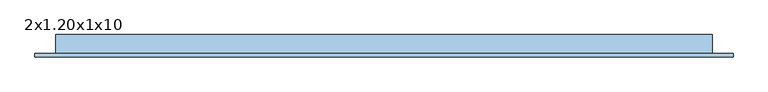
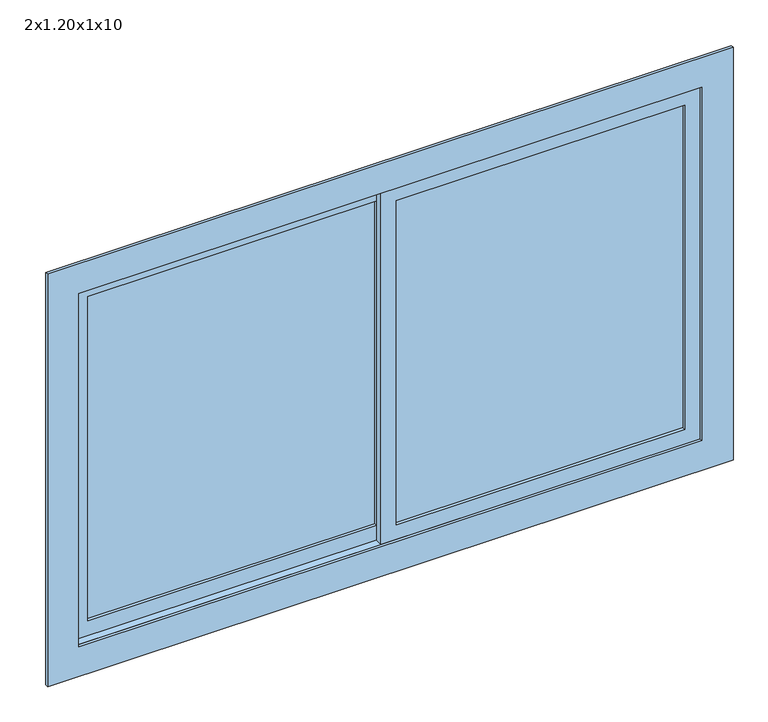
"""IFC4 building model written with IfcOpenShell, lengths in millimetres: window geometry, JANELA COM ESQUADRIA DE CORRER - 2 FOLHAS : 2x1.20x1x10."""

from ifc_helpers import new_model, si_unit, frame, origin, place, context, project, spatial, polyline, outline, extrude, source, transform, mapped, element, save


def window_2x1_20x1x10_9e9748dd(model_context):
    return source(origin(), model_context, "Body", "SweptSolid", [
        extrude(outline(polyline([(-820.5964491, -5.3758395), (104.4035509, -5.3758395), (104.4035509, -11.3758395), (-820.5964491, -11.3758395), (-820.5964491, -5.3758395)])), frame((0.0, 0.0, 1050.0), z_axis=(0.0, 0.0, 1.0), x_axis=(1.0, 0.0, 0.0)), (0.0, 0.0, 1.0), 1100.0),
        extrude(outline(polyline([(2200.0, -870.5964491), (1000.0, -870.5964491), (1000.0, 154.4035509), (2200.0, 154.4035509), (2200.0, -870.5964491)]), holes=[polyline([(2150.0, -820.5964491), (2150.0, 104.4035509), (1050.0, 104.4035509), (1050.0, -820.5964491), (2150.0, -820.5964491)])]), frame((0.0, -20.8758395, 0.0), z_axis=(0.0, 1.0, 0.0), x_axis=(0.0, 0.0, 1.0)), (0.0, 0.0, 1.0), 25.0),
        extrude(outline(polyline([(1079.4035509, -30.3758395), (1079.4035509, -36.3758395), (154.4035509, -36.3758395), (154.4035509, -30.3758395), (1079.4035509, -30.3758395)])), frame((0.0, 0.0, 1050.0), z_axis=(0.0, 0.0, 1.0), x_axis=(1.0, 0.0, 0.0)), (0.0, 0.0, 1.0), 1100.0),
        extrude(outline(polyline([(2200.0, 1129.4035509), (2200.0, 104.4035509), (1000.0, 104.4035509), (1000.0, 1129.4035509), (2200.0, 1129.4035509)]), holes=[polyline([(2150.0, 1079.4035509), (1050.0, 1079.4035509), (1050.0, 154.4035509), (2150.0, 154.4035509), (2150.0, 1079.4035509)])]), frame((0.0, -45.8758395, 0.0), z_axis=(0.0, 1.0, 0.0), x_axis=(0.0, 0.0, 1.0)), (0.0, 0.0, 1.0), 25.0),
        extrude(outline(polyline([(900.0, -970.5964491), (900.0, 1229.4035509), (2300.0, 1229.4035509), (2300.0, -970.5964491), (900.0, -970.5964491)]), holes=[polyline([(2200.0, -870.5964491), (2200.0, 1129.4035509), (1000.0, 1129.4035509), (1000.0, -870.5964491), (2200.0, -870.5964491)])]), frame((0.0, -55.8758395, 0.0), z_axis=(0.0, 1.0, 0.0), x_axis=(0.0, 0.0, 1.0)), (0.0, 0.0, 1.0), 10.0),
        extrude(outline(polyline([(-905.5964491, 14.1241605), (-870.5964491, 14.1241605), (-870.5964491, -45.8758395), (-905.5964491, -45.8758395), (-905.5964491, 14.1241605)])), frame((0.0, 0.0, 1000.0), z_axis=(0.0, 0.0, 1.0), x_axis=(1.0, 0.0, 0.0)), (0.0, 0.0, 1.0), 1200.0),
        extrude(outline(polyline([(1129.4035509, 14.1241605), (1164.4035509, 14.1241605), (1164.4035509, -45.8758395), (1129.4035509, -45.8758395), (1129.4035509, 14.1241605)])), frame((0.0, 0.0, 1000.0), z_axis=(0.0, 0.0, 1.0), x_axis=(1.0, 0.0, 0.0)), (0.0, 0.0, 1.0), 1200.0),
        extrude(outline(polyline([(-905.5964491, 14.1241605), (1164.4035509, 14.1241605), (1164.4035509, -45.8758395), (-905.5964491, -45.8758395), (-905.5964491, 14.1241605)])), frame((0.0, 0.0, 965.0), z_axis=(0.0, 0.0, 1.0), x_axis=(1.0, 0.0, 0.0)), (0.0, 0.0, 1.0), 35.0),
        extrude(outline(polyline([(-905.5964491, 14.1241605), (1164.4035509, 14.1241605), (1164.4035509, -45.8758395), (-905.5964491, -45.8758395), (-905.5964491, 14.1241605)])), frame((0.0, 0.0, 2200.0), z_axis=(0.0, 0.0, 1.0), x_axis=(1.0, 0.0, 0.0)), (0.0, 0.0, 1.0), 35.0),
    ])


if __name__ == "__main__":
    model = new_model("IFC4")
    model_context = context("Model", 3, world=origin())
    ifc_project = project(units=[si_unit("LENGTHUNIT", "METRE", prefix="MILLI")], contexts=[model_context])
    site = spatial("IfcSite", under=ifc_project)
    building = spatial("IfcBuilding", under=site)
    placement = place(None, origin())
    window_2x1_20x1x10_shape = window_2x1_20x1x10_9e9748dd(model_context)
    element("IfcWindow", 1, ObjectType="JANELA COM ESQUADRIA DE CORRER - 2 FOLHAS : 2x1.20x1x10", at=placement, inside=building, context=model_context, shape_type="MappedRepresentation", body=[
        mapped(window_2x1_20x1x10_shape, transform((0.0, 0.0, 0.0), x_axis=(1.0, 0.0, 0.0), y_axis=(0.0, 1.0, 0.0), z_axis=(0.0, 0.0, 1.0))),
    ])
    save(model, "model.ifc")
